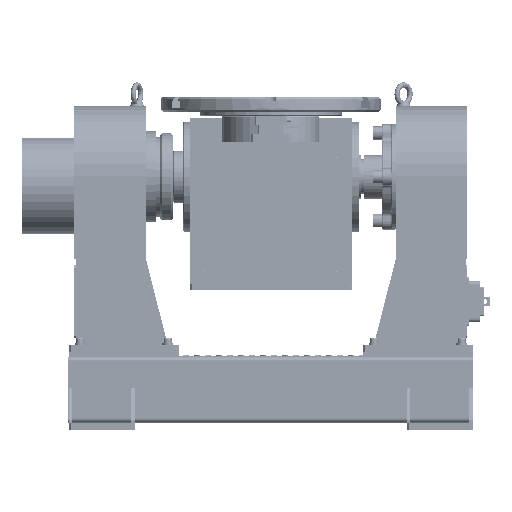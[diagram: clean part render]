
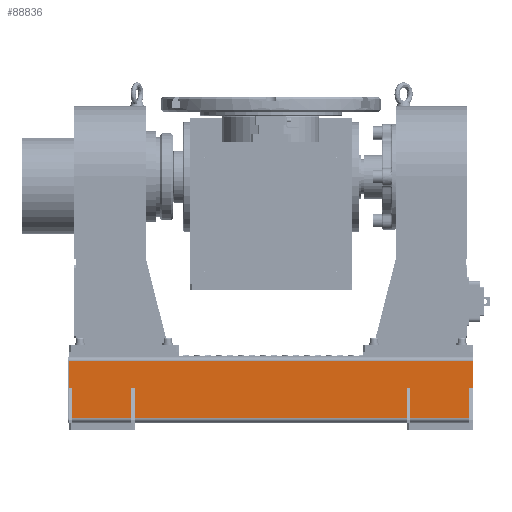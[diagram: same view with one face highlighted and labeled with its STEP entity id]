
A CAD part, front view. The second image highlights one B-rep face of the part: STEP entity #88836.
In plain terms, the highlighted planar face has unit normal (0, -1, 0).
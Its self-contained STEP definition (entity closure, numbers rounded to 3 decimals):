
#4473 = VERTEX_POINT ( 'NONE', #50387 ) ;
#9414 = DIRECTION ( 'NONE',  ( -1., 0., 0. ) ) ;
#14410 = VECTOR ( 'NONE', #40498, 1000. ) ;
#15109 = VECTOR ( 'NONE', #9414, 1000. ) ;
#19855 = CARTESIAN_POINT ( 'NONE',  ( 385., -200., -65. ) ) ;
#27836 = ORIENTED_EDGE ( 'NONE', *, *, #82051, .F. ) ;
#30245 = DIRECTION ( 'NONE',  ( -1., 0., 0. ) ) ;
#30766 = CARTESIAN_POINT ( 'NONE',  ( -460., -200., -65. ) ) ;
#33340 = EDGE_CURVE ( 'NONE', #82449, #101270, #65262, .T. ) ;
#33356 = EDGE_CURVE ( 'NONE', #4473, #76276, #125025, .T. ) ;
#40498 = DIRECTION ( 'NONE',  ( 0., 0., 1. ) ) ;
#44964 = PLANE ( 'NONE',  #74083 ) ;
#45029 = VECTOR ( 'NONE', #126542, 1000. ) ;
#47844 = ORIENTED_EDGE ( 'NONE', *, *, #33356, .T. ) ;
#48057 = CARTESIAN_POINT ( 'NONE',  ( 460., -200., -65. ) ) ;
#50240 = ORIENTED_EDGE ( 'NONE', *, *, #33340, .F. ) ;
#50387 = CARTESIAN_POINT ( 'NONE',  ( 460., -200., 65. ) ) ;
#57714 = EDGE_LOOP ( 'NONE', ( #27836, #50240, #132518, #47844 ) ) ;
#65262 = LINE ( 'NONE', #19855, #70095 ) ;
#65793 = DIRECTION ( 'NONE',  ( 0., 0., 1. ) ) ;
#68122 = EDGE_CURVE ( 'NONE', #4473, #82449, #128564, .T. ) ;
#69410 = LINE ( 'NONE', #102433, #14410 ) ;
#70095 = VECTOR ( 'NONE', #30245, 1000. ) ;
#74083 = AXIS2_PLACEMENT_3D ( 'NONE', #117287, #127694, #65793 ) ;
#76276 = VERTEX_POINT ( 'NONE', #95396 ) ;
#82051 = EDGE_CURVE ( 'NONE', #101270, #76276, #69410, .T. ) ;
#82449 = VERTEX_POINT ( 'NONE', #48057 ) ;
#88836 = ADVANCED_FACE ( 'NONE', ( #99748 ), #44964, .F. ) ;
#92201 = CARTESIAN_POINT ( 'NONE',  ( 385., -200., 65. ) ) ;
#95396 = CARTESIAN_POINT ( 'NONE',  ( -460., -200., 65. ) ) ;
#95442 = CARTESIAN_POINT ( 'NONE',  ( 460., -200., -65. ) ) ;
#99748 = FACE_OUTER_BOUND ( 'NONE', #57714, .T. ) ;
#101270 = VERTEX_POINT ( 'NONE', #30766 ) ;
#102433 = CARTESIAN_POINT ( 'NONE',  ( -460., -200., -65. ) ) ;
#117287 = CARTESIAN_POINT ( 'NONE',  ( 385., -200., -65. ) ) ;
#125025 = LINE ( 'NONE', #92201, #15109 ) ;
#126542 = DIRECTION ( 'NONE',  ( 0., 0., -1. ) ) ;
#127694 = DIRECTION ( 'NONE',  ( 0., 1., 0. ) ) ;
#128564 = LINE ( 'NONE', #95442, #45029 ) ;
#132518 = ORIENTED_EDGE ( 'NONE', *, *, #68122, .F. ) ;
